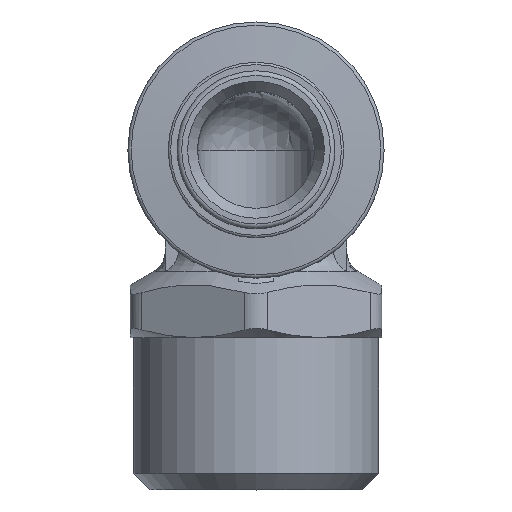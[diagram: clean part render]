
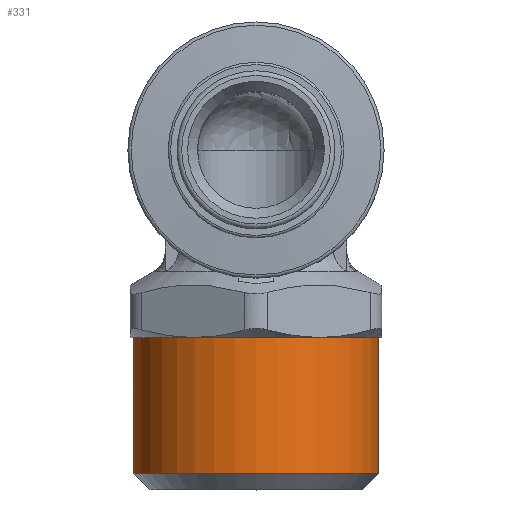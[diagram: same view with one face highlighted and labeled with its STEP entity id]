
A CAD part, top view. The second image highlights one B-rep face of the part: STEP entity #331.
In plain terms, the highlighted cylindrical face has radius 10.477 mm (diameter 20.955 mm), a full revolution.
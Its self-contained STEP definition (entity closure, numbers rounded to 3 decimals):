
#331=ADVANCED_FACE('',(#2285,#2287),#2289,.T.);
#2285=FACE_OUTER_BOUND('',#2286,.T.);
#2286=EDGE_LOOP('',(#4730));
#2287=FACE_OUTER_BOUND('',#2288,.T.);
#2288=EDGE_LOOP('',(#4731));
#2289=CYLINDRICAL_SURFACE('',#2290,10.478);
#2290=AXIS2_PLACEMENT_3D('',#2291,#2292,#2293);
#2291=CARTESIAN_POINT('',(0.,-16.,0.));
#2292=DIRECTION('',(0.,-1.,0.));
#2293=DIRECTION('',(1.,0.,0.));
#4730=ORIENTED_EDGE('',*,*,#5626,.F.);
#4731=ORIENTED_EDGE('',*,*,#5628,.T.);
#5626=EDGE_CURVE('',#7005,#7005,#7006,.F.);
#5628=EDGE_CURVE('',#7009,#7009,#7010,.T.);
#7005=VERTEX_POINT('',#11453);
#7006=CIRCLE('',#11454,10.478);
#7009=VERTEX_POINT('',#11463);
#7010=CIRCLE('',#11464,10.478);
#11453=CARTESIAN_POINT('',(10.478,-16.,0.));
#11454=AXIS2_PLACEMENT_3D('',#11455,#11456,#11457);
#11455=CARTESIAN_POINT('',(0.,-16.,0.));
#11456=DIRECTION('',(0.,-1.,0.));
#11457=DIRECTION('',(1.,0.,0.));
#11463=CARTESIAN_POINT('',(10.478,-27.6,0.));
#11464=AXIS2_PLACEMENT_3D('',#11465,#11466,#11467);
#11465=CARTESIAN_POINT('',(0.,-27.6,0.));
#11466=DIRECTION('',(0.,1.,0.));
#11467=DIRECTION('',(1.,0.,0.));
